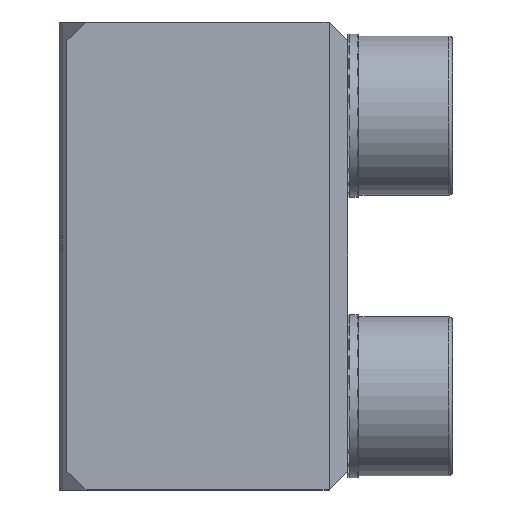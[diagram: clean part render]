
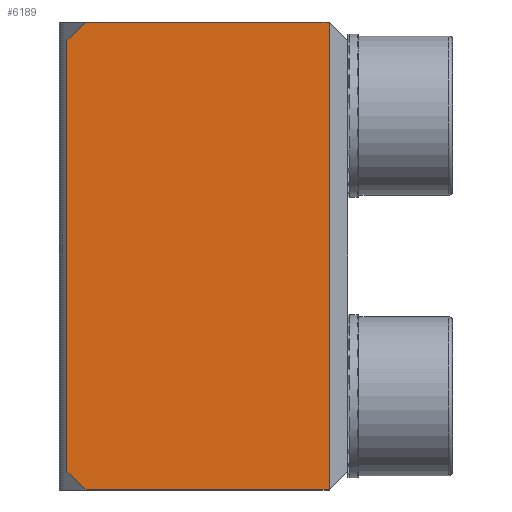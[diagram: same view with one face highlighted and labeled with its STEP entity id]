
A CAD part, front view. The second image highlights one B-rep face of the part: STEP entity #6189.
In plain terms, the highlighted planar face has unit normal (0, -1, 0).
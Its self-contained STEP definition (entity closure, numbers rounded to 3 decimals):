
#671 = LINE ( 'NONE', #11214, #10875 ) ;
#701 = CARTESIAN_POINT ( 'NONE',  ( 23.092, -2.064, 11.5 ) ) ;
#1127 = DIRECTION ( 'NONE',  ( 1., 0., 0. ) ) ;
#1300 = LINE ( 'NONE', #17555, #16023 ) ;
#1651 = CARTESIAN_POINT ( 'NONE',  ( 30.592, -2.064, 12.5 ) ) ;
#2573 = CARTESIAN_POINT ( 'NONE',  ( 37.092, -2.064, -12.5 ) ) ;
#3592 = DIRECTION ( 'NONE',  ( 1., 0., 0. ) ) ;
#3796 = ORIENTED_EDGE ( 'NONE', *, *, #20513, .F. ) ;
#4212 = VECTOR ( 'NONE', #19287, 1000. ) ;
#5868 = VECTOR ( 'NONE', #16363, 1000. ) ;
#6189 = ADVANCED_FACE ( 'NONE', ( #24787 ), #12490, .T. ) ;
#6840 = ORIENTED_EDGE ( 'NONE', *, *, #7052, .T. ) ;
#7052 = EDGE_CURVE ( 'NONE', #9422, #15447, #671, .T. ) ;
#7556 = LINE ( 'NONE', #1651, #17175 ) ;
#9093 = CARTESIAN_POINT ( 'NONE',  ( 37.092, -2.064, 0. ) ) ;
#9422 = VERTEX_POINT ( 'NONE', #19257 ) ;
#9923 = VERTEX_POINT ( 'NONE', #13338 ) ;
#10088 = ORIENTED_EDGE ( 'NONE', *, *, #23230, .T. ) ;
#10875 = VECTOR ( 'NONE', #24654, 1000. ) ;
#11214 = CARTESIAN_POINT ( 'NONE',  ( 24.092, -2.064, 12.5 ) ) ;
#12490 = PLANE ( 'NONE',  #15142 ) ;
#12561 = DIRECTION ( 'NONE',  ( 0., -1., 0. ) ) ;
#13338 = CARTESIAN_POINT ( 'NONE',  ( 24.092, -2.064, -12.5 ) ) ;
#13580 = VERTEX_POINT ( 'NONE', #20363 ) ;
#14217 = ORIENTED_EDGE ( 'NONE', *, *, #22148, .T. ) ;
#14425 = CARTESIAN_POINT ( 'NONE',  ( 23.092, -2.064, 0. ) ) ;
#15005 = LINE ( 'NONE', #17350, #4212 ) ;
#15142 = AXIS2_PLACEMENT_3D ( 'NONE', #24129, #12561, #1127 ) ;
#15435 = LINE ( 'NONE', #9093, #24494 ) ;
#15447 = VERTEX_POINT ( 'NONE', #701 ) ;
#15896 = DIRECTION ( 'NONE',  ( -1., 0., 0. ) ) ;
#16023 = VECTOR ( 'NONE', #15896, 1000. ) ;
#16363 = DIRECTION ( 'NONE',  ( 0., 0., -1. ) ) ;
#16691 = ORIENTED_EDGE ( 'NONE', *, *, #24193, .F. ) ;
#17052 = CARTESIAN_POINT ( 'NONE',  ( 23.092, -2.064, -11.5 ) ) ;
#17175 = VECTOR ( 'NONE', #3592, 1000. ) ;
#17350 = CARTESIAN_POINT ( 'NONE',  ( 23.092, -2.064, -11.5 ) ) ;
#17555 = CARTESIAN_POINT ( 'NONE',  ( 30.592, -2.064, -12.5 ) ) ;
#19257 = CARTESIAN_POINT ( 'NONE',  ( 24.092, -2.064, 12.5 ) ) ;
#19287 = DIRECTION ( 'NONE',  ( 0.707, 0., -0.707 ) ) ;
#19510 = EDGE_CURVE ( 'NONE', #9422, #13580, #7556, .T. ) ;
#20104 = VERTEX_POINT ( 'NONE', #17052 ) ;
#20363 = CARTESIAN_POINT ( 'NONE',  ( 37.092, -2.064, 12.5 ) ) ;
#20513 = EDGE_CURVE ( 'NONE', #13580, #23605, #15435, .T. ) ;
#20832 = DIRECTION ( 'NONE',  ( 0., 0., -1. ) ) ;
#21684 = ORIENTED_EDGE ( 'NONE', *, *, #19510, .F. ) ;
#21802 = LINE ( 'NONE', #14425, #5868 ) ;
#22148 = EDGE_CURVE ( 'NONE', #20104, #9923, #15005, .T. ) ;
#23230 = EDGE_CURVE ( 'NONE', #15447, #20104, #21802, .T. ) ;
#23605 = VERTEX_POINT ( 'NONE', #2573 ) ;
#23836 = EDGE_LOOP ( 'NONE', ( #16691, #3796, #21684, #6840, #10088, #14217 ) ) ;
#24129 = CARTESIAN_POINT ( 'NONE',  ( 23.092, -2.064, -12.5 ) ) ;
#24193 = EDGE_CURVE ( 'NONE', #23605, #9923, #1300, .T. ) ;
#24494 = VECTOR ( 'NONE', #20832, 1000. ) ;
#24654 = DIRECTION ( 'NONE',  ( -0.707, 0., -0.707 ) ) ;
#24787 = FACE_OUTER_BOUND ( 'NONE', #23836, .T. ) ;
